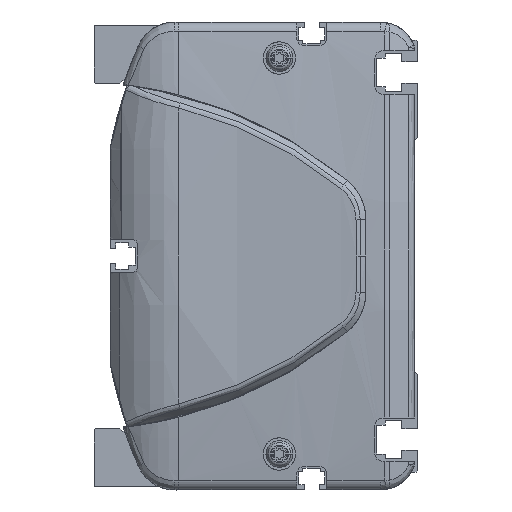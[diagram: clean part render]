
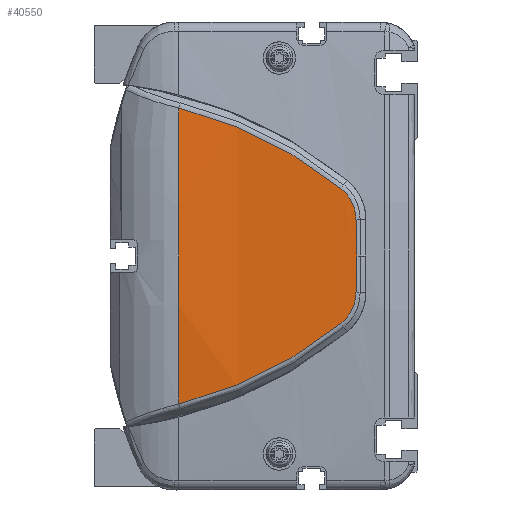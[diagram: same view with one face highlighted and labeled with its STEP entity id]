
A CAD part, left-side view. The second image highlights one B-rep face of the part: STEP entity #40550.
In plain terms, the highlighted cylindrical face has radius 500 mm (diameter 1000 mm), a partial arc.
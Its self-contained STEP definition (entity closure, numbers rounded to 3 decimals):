
#36806=CARTESIAN_POINT('',(486.,66.362,0.));
#36807=DIRECTION('',(0.,-1.,0.));
#36808=DIRECTION('',(-0.997,0.,0.082));
#36809=AXIS2_PLACEMENT_3D('',#36806,#36807,#36808);
#37690=CARTESIAN_POINT('',(-13.648,21.313,
-18.759));
#37691=CARTESIAN_POINT('',(-13.449,27.904,
-24.058));
#37692=CARTESIAN_POINT('',(-12.934,42.195,
-33.27));
#37693=CARTESIAN_POINT('',(-12.471,58.156,
-39.127));
#37694=CARTESIAN_POINT('',(-12.306,66.362,
-41.121));
#37696=CARTESIAN_POINT('',(-12.306,66.362,
41.121));
#37697=CARTESIAN_POINT('',(-12.471,58.156,
39.127));
#37698=CARTESIAN_POINT('',(-12.934,42.195,
33.27));
#37699=CARTESIAN_POINT('',(-13.449,27.904,
24.058));
#37700=CARTESIAN_POINT('',(-13.648,21.313,
18.759));
#37702=CARTESIAN_POINT('',(-13.648,21.313,
18.759));
#37703=CARTESIAN_POINT('',(-13.686,20.035,
17.736));
#37704=CARTESIAN_POINT('',(-13.779,17.936,
15.107));
#37705=CARTESIAN_POINT('',(-13.863,17.152,
11.827));
#37706=CARTESIAN_POINT('',(-13.896,17.124,
10.178));
#37708=CARTESIAN_POINT('',(-13.896,17.124,
10.178));
#37709=CARTESIAN_POINT('',(-13.92,17.107,
9.027));
#37710=CARTESIAN_POINT('',(-13.958,17.067,
6.737));
#37711=CARTESIAN_POINT('',(-13.993,16.98,
3.343));
#37712=CARTESIAN_POINT('',(-14.,16.898,
1.11));
#37713=CARTESIAN_POINT('',(-14.,16.849,
0.));
#37715=CARTESIAN_POINT('',(-14.,16.849,
0.));
#37716=CARTESIAN_POINT('',(-14.,16.898,
-1.11));
#37717=CARTESIAN_POINT('',(-13.993,16.98,
-3.343));
#37718=CARTESIAN_POINT('',(-13.959,17.067,
-6.736));
#37719=CARTESIAN_POINT('',(-13.92,17.107,
-9.029));
#37720=CARTESIAN_POINT('',(-13.896,17.124,
-10.18));
#37722=CARTESIAN_POINT('',(-13.896,17.124,
-10.18));
#37723=CARTESIAN_POINT('',(-13.863,17.152,
-11.828));
#37724=CARTESIAN_POINT('',(-13.779,17.937,
-15.109));
#37725=CARTESIAN_POINT('',(-13.686,20.035,
-17.736));
#37726=CARTESIAN_POINT('',(-13.648,21.313,
-18.759));
#38374=VERTEX_POINT('',#37690);
#38375=VERTEX_POINT('',#37694);
#38376=CARTESIAN_POINT('',(-12.306,66.362,
41.121));
#38377=VERTEX_POINT('',#38376);
#38378=VERTEX_POINT('',#37700);
#38379=VERTEX_POINT('',#37706);
#38380=VERTEX_POINT('',#37713);
#38381=VERTEX_POINT('',#37720);
#40531=CARTESIAN_POINT('',(486.,8.006,0.));
#40532=DIRECTION('',(0.,1.,0.));
#40533=DIRECTION('',(1.,0.,0.));
#40534=AXIS2_PLACEMENT_3D('',#40531,#40532,#40533);
#40535=CYLINDRICAL_SURFACE('',#40534,500.);
#40537=ORIENTED_EDGE('',*,*,#40536,.T.);
#40538=ORIENTED_EDGE('',*,*,#39176,.F.);
#40540=ORIENTED_EDGE('',*,*,#40539,.T.);
#40542=ORIENTED_EDGE('',*,*,#40541,.T.);
#40544=ORIENTED_EDGE('',*,*,#40543,.T.);
#40546=ORIENTED_EDGE('',*,*,#40545,.T.);
#40547=ORIENTED_EDGE('',*,*,#40521,.T.);
#40548=EDGE_LOOP('',(#40537,#40538,#40540,#40542,#40544,#40546,#40547));
#40549=FACE_OUTER_BOUND('',#40548,.F.);
#40550=ADVANCED_FACE('',(#40549),#40535,.T.);
#36810=CIRCLE('',#36809,500.);
#37695=B_SPLINE_CURVE_WITH_KNOTS('',3,(#37690,#37691,#37692,#37693,#37694),
.UNSPECIFIED.,.F.,.F.,(4,1,4),(0.,0.5,1.),.UNSPECIFIED.);
#37701=B_SPLINE_CURVE_WITH_KNOTS('',3,(#37696,#37697,#37698,#37699,#37700),
.UNSPECIFIED.,.F.,.F.,(4,1,4),(0.,0.5,1.),.UNSPECIFIED.);
#37707=B_SPLINE_CURVE_WITH_KNOTS('',3,(#37702,#37703,#37704,#37705,#37706),
.UNSPECIFIED.,.F.,.F.,(4,1,4),(0.,0.5,1.),.UNSPECIFIED.);
#37714=B_SPLINE_CURVE_WITH_KNOTS('',3,(#37708,#37709,#37710,#37711,#37712,
#37713),.UNSPECIFIED.,.F.,.F.,(4,1,1,4),(0.,0.333,
0.667,1.),.UNSPECIFIED.);
#37721=B_SPLINE_CURVE_WITH_KNOTS('',3,(#37715,#37716,#37717,#37718,#37719,
#37720),.UNSPECIFIED.,.F.,.F.,(4,1,1,4),(0.,0.333,
0.667,1.),.UNSPECIFIED.);
#37727=B_SPLINE_CURVE_WITH_KNOTS('',3,(#37722,#37723,#37724,#37725,#37726),
.UNSPECIFIED.,.F.,.F.,(4,1,4),(0.,0.5,1.),.UNSPECIFIED.);
#39176=EDGE_CURVE('',#38377,#38375,#36810,.T.);
#40521=EDGE_CURVE('',#38381,#38374,#37727,.T.);
#40536=EDGE_CURVE('',#38374,#38375,#37695,.T.);
#40539=EDGE_CURVE('',#38377,#38378,#37701,.T.);
#40541=EDGE_CURVE('',#38378,#38379,#37707,.T.);
#40543=EDGE_CURVE('',#38379,#38380,#37714,.T.);
#40545=EDGE_CURVE('',#38380,#38381,#37721,.T.);
